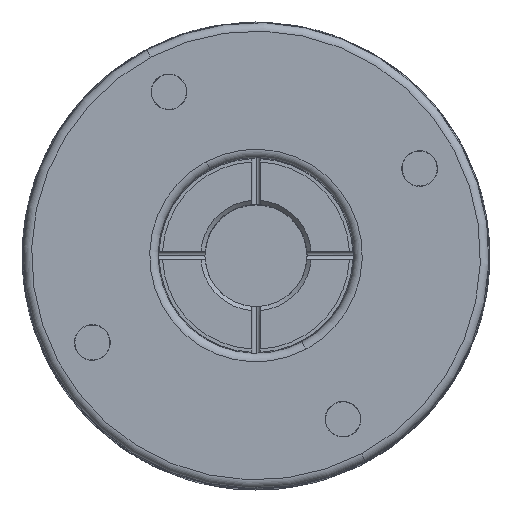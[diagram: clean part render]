
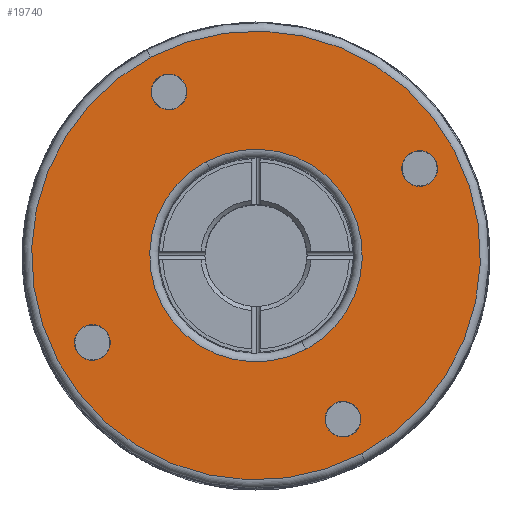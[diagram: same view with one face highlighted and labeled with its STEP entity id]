
A CAD part, top view. The second image highlights one B-rep face of the part: STEP entity #19740.
In plain terms, the highlighted planar face has unit normal (0, 0, 1).
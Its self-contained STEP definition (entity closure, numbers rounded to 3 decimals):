
#81 = DIRECTION ( 'NONE',  ( 0.469, -0.883, 0. ) ) ;
#211 = DIRECTION ( 'NONE',  ( 0.469, -0.883, 0. ) ) ;
#485 = EDGE_CURVE ( 'NONE', #24541, #12289, #16508, .T. ) ;
#808 = AXIS2_PLACEMENT_3D ( 'NONE', #7433, #20885, #9350 ) ;
#1446 = AXIS2_PLACEMENT_3D ( 'NONE', #5222, #18674, #7145 ) ;
#1499 = CIRCLE ( 'NONE', #808, 12.505 ) ;
#1545 = ORIENTED_EDGE ( 'NONE', *, *, #485, .F. ) ;
#1846 = ORIENTED_EDGE ( 'NONE', *, *, #5336, .F. ) ;
#2069 = CARTESIAN_POINT ( 'NONE',  ( -5.352, 10.066, 22.3 ) ) ;
#2093 = CARTESIAN_POINT ( 'NONE',  ( 10.234, -19.248, 22.3 ) ) ;
#2953 = CIRCLE ( 'NONE', #15257, 26.4 ) ;
#2986 = DIRECTION ( 'NONE',  ( 0., 0., 1. ) ) ;
#3183 = CARTESIAN_POINT ( 'NONE',  ( -12.394, 23.31, 22.3 ) ) ;
#3750 = CARTESIAN_POINT ( 'NONE',  ( -18.262, -12.089, 22.3 ) ) ;
#4028 = DIRECTION ( 'NONE',  ( 0.469, -0.883, 0. ) ) ;
#4112 = CARTESIAN_POINT ( 'NONE',  ( 19.248, 10.234, 22.3 ) ) ;
#4197 = CIRCLE ( 'NONE', #15821, 2.1 ) ;
#4820 = CIRCLE ( 'NONE', #5907, 2.1 ) ;
#4978 = EDGE_CURVE ( 'NONE', #22775, #10014, #21068, .T. ) ;
#5034 = CIRCLE ( 'NONE', #23085, 2.1 ) ;
#5172 = CIRCLE ( 'NONE', #9003, 2.1 ) ;
#5222 = CARTESIAN_POINT ( 'NONE',  ( 0., 0., 22.3 ) ) ;
#5324 = CARTESIAN_POINT ( 'NONE',  ( -20.234, -8.38, 22.3 ) ) ;
#5336 = EDGE_CURVE ( 'NONE', #10014, #22775, #4197, .T. ) ;
#5355 = CARTESIAN_POINT ( 'NONE',  ( -8.38, 20.234, 22.3 ) ) ;
#5907 = AXIS2_PLACEMENT_3D ( 'NONE', #6053, #19507, #7984 ) ;
#5948 = EDGE_CURVE ( 'NONE', #7555, #15509, #19544, .T. ) ;
#6005 = CIRCLE ( 'NONE', #12465, 2.1 ) ;
#6053 = CARTESIAN_POINT ( 'NONE',  ( 19.248, 10.234, 22.3 ) ) ;
#6063 = DIRECTION ( 'NONE',  ( 0.469, -0.883, 0. ) ) ;
#6144 = FACE_BOUND ( 'NONE', #12751, .T. ) ;
#6516 = CARTESIAN_POINT ( 'NONE',  ( 0., 0., 22.3 ) ) ;
#6755 = EDGE_CURVE ( 'NONE', #24419, #17354, #5034, .T. ) ;
#7041 = CARTESIAN_POINT ( 'NONE',  ( 10.234, -19.248, 22.3 ) ) ;
#7145 = DIRECTION ( 'NONE',  ( -0.469, 0.883, 0. ) ) ;
#7433 = CARTESIAN_POINT ( 'NONE',  ( 0., 0., 22.3 ) ) ;
#7555 = VERTEX_POINT ( 'NONE', #16173 ) ;
#7890 = ORIENTED_EDGE ( 'NONE', *, *, #5948, .T. ) ;
#7892 = EDGE_LOOP ( 'NONE', ( #18116, #1545 ) ) ;
#7896 = DIRECTION ( 'NONE',  ( -0.469, 0.883, 0. ) ) ;
#7984 = DIRECTION ( 'NONE',  ( 0.469, -0.883, 0. ) ) ;
#7999 = EDGE_LOOP ( 'NONE', ( #13496, #7890 ) ) ;
#8431 = DIRECTION ( 'NONE',  ( -0.469, 0.883, 0. ) ) ;
#8605 = AXIS2_PLACEMENT_3D ( 'NONE', #2093, #15574, #4028 ) ;
#8818 = EDGE_LOOP ( 'NONE', ( #10852, #1846 ) ) ;
#8874 = ORIENTED_EDGE ( 'NONE', *, *, #14502, .T. ) ;
#8937 = DIRECTION ( 'NONE',  ( 0., 0., 1. ) ) ;
#8945 = DIRECTION ( 'NONE',  ( 0.469, -0.883, 0. ) ) ;
#9003 = AXIS2_PLACEMENT_3D ( 'NONE', #7041, #20492, #8945 ) ;
#9016 = DIRECTION ( 'NONE',  ( 0., 0., 1. ) ) ;
#9350 = DIRECTION ( 'NONE',  ( -0.469, 0.883, 0. ) ) ;
#10014 = VERTEX_POINT ( 'NONE', #5324 ) ;
#10019 = VERTEX_POINT ( 'NONE', #22632 ) ;
#10852 = ORIENTED_EDGE ( 'NONE', *, *, #4978, .F. ) ;
#11258 = FACE_BOUND ( 'NONE', #8818, .T. ) ;
#11631 = DIRECTION ( 'NONE',  ( 0., 0., 1. ) ) ;
#11759 = DIRECTION ( 'NONE',  ( 0., 0., 1. ) ) ;
#11921 = EDGE_CURVE ( 'NONE', #12289, #24541, #5172, .T. ) ;
#12289 = VERTEX_POINT ( 'NONE', #19977 ) ;
#12465 = AXIS2_PLACEMENT_3D ( 'NONE', #20481, #8937, #22390 ) ;
#12751 = EDGE_LOOP ( 'NONE', ( #20333, #13653 ) ) ;
#12954 = CIRCLE ( 'NONE', #18088, 2.1 ) ;
#13329 = CARTESIAN_POINT ( 'NONE',  ( 20.234, 8.38, 22.3 ) ) ;
#13496 = ORIENTED_EDGE ( 'NONE', *, *, #14136, .T. ) ;
#13505 = CARTESIAN_POINT ( 'NONE',  ( 18.262, 12.089, 22.3 ) ) ;
#13653 = ORIENTED_EDGE ( 'NONE', *, *, #16779, .F. ) ;
#14035 = EDGE_CURVE ( 'NONE', #10019, #23816, #12954, .T. ) ;
#14136 = EDGE_CURVE ( 'NONE', #15509, #7555, #1499, .T. ) ;
#14502 = EDGE_CURVE ( 'NONE', #23065, #16019, #24348, .T. ) ;
#14548 = AXIS2_PLACEMENT_3D ( 'NONE', #14559, #2986, #16476 ) ;
#14559 = CARTESIAN_POINT ( 'NONE',  ( 0., 0., 22.3 ) ) ;
#15257 = AXIS2_PLACEMENT_3D ( 'NONE', #6516, #19984, #8431 ) ;
#15315 = AXIS2_PLACEMENT_3D ( 'NONE', #2069, #19416, #7896 ) ;
#15509 = VERTEX_POINT ( 'NONE', #19724 ) ;
#15574 = DIRECTION ( 'NONE',  ( 0., 0., 1. ) ) ;
#15821 = AXIS2_PLACEMENT_3D ( 'NONE', #23134, #11631, #81 ) ;
#16019 = VERTEX_POINT ( 'NONE', #3183 ) ;
#16173 = CARTESIAN_POINT ( 'NONE',  ( 5.871, -11.041, 22.3 ) ) ;
#16360 = FACE_BOUND ( 'NONE', #23303, .T. ) ;
#16476 = DIRECTION ( 'NONE',  ( -0.469, 0.883, 0. ) ) ;
#16508 = CIRCLE ( 'NONE', #8605, 2.1 ) ;
#16779 = EDGE_CURVE ( 'NONE', #17354, #24419, #4820, .T. ) ;
#16968 = FACE_BOUND ( 'NONE', #7892, .T. ) ;
#17354 = VERTEX_POINT ( 'NONE', #13505 ) ;
#17425 = EDGE_CURVE ( 'NONE', #16019, #23065, #2953, .T. ) ;
#17493 = PLANE ( 'NONE',  #15315 ) ;
#17597 = FACE_OUTER_BOUND ( 'NONE', #18165, .T. ) ;
#17611 = DIRECTION ( 'NONE',  ( 0., 0., 1. ) ) ;
#18056 = AXIS2_PLACEMENT_3D ( 'NONE', #23280, #11759, #211 ) ;
#18088 = AXIS2_PLACEMENT_3D ( 'NONE', #20553, #9016, #22451 ) ;
#18116 = ORIENTED_EDGE ( 'NONE', *, *, #11921, .F. ) ;
#18165 = EDGE_LOOP ( 'NONE', ( #18565, #8874 ) ) ;
#18565 = ORIENTED_EDGE ( 'NONE', *, *, #17425, .T. ) ;
#18674 = DIRECTION ( 'NONE',  ( 0., 0., -1. ) ) ;
#19416 = DIRECTION ( 'NONE',  ( 0., 0., -1. ) ) ;
#19425 = ORIENTED_EDGE ( 'NONE', *, *, #14035, .F. ) ;
#19507 = DIRECTION ( 'NONE',  ( 0., 0., 1. ) ) ;
#19544 = CIRCLE ( 'NONE', #1446, 12.505 ) ;
#19724 = CARTESIAN_POINT ( 'NONE',  ( -5.871, 11.041, 22.3 ) ) ;
#19740 = ADVANCED_FACE ( 'NONE', ( #6144, #16968, #11258, #16360, #22057, #17597 ), #17493, .F. ) ;
#19977 = CARTESIAN_POINT ( 'NONE',  ( 11.22, -21.102, 22.3 ) ) ;
#19984 = DIRECTION ( 'NONE',  ( 0., 0., 1. ) ) ;
#20333 = ORIENTED_EDGE ( 'NONE', *, *, #6755, .F. ) ;
#20481 = CARTESIAN_POINT ( 'NONE',  ( -10.234, 19.248, 22.3 ) ) ;
#20492 = DIRECTION ( 'NONE',  ( 0., 0., 1. ) ) ;
#20553 = CARTESIAN_POINT ( 'NONE',  ( -10.234, 19.248, 22.3 ) ) ;
#20869 = ORIENTED_EDGE ( 'NONE', *, *, #23047, .F. ) ;
#20885 = DIRECTION ( 'NONE',  ( 0., 0., -1. ) ) ;
#21068 = CIRCLE ( 'NONE', #18056, 2.1 ) ;
#22057 = FACE_BOUND ( 'NONE', #7999, .T. ) ;
#22390 = DIRECTION ( 'NONE',  ( 0.883, 0.469, 0. ) ) ;
#22451 = DIRECTION ( 'NONE',  ( 0.883, 0.469, 0. ) ) ;
#22632 = CARTESIAN_POINT ( 'NONE',  ( -12.089, 18.262, 22.3 ) ) ;
#22775 = VERTEX_POINT ( 'NONE', #3750 ) ;
#23047 = EDGE_CURVE ( 'NONE', #23816, #10019, #6005, .T. ) ;
#23065 = VERTEX_POINT ( 'NONE', #24324 ) ;
#23085 = AXIS2_PLACEMENT_3D ( 'NONE', #4112, #17611, #6063 ) ;
#23134 = CARTESIAN_POINT ( 'NONE',  ( -19.248, -10.234, 22.3 ) ) ;
#23280 = CARTESIAN_POINT ( 'NONE',  ( -19.248, -10.234, 22.3 ) ) ;
#23303 = EDGE_LOOP ( 'NONE', ( #20869, #19425 ) ) ;
#23399 = CARTESIAN_POINT ( 'NONE',  ( 9.249, -17.394, 22.3 ) ) ;
#23816 = VERTEX_POINT ( 'NONE', #5355 ) ;
#24324 = CARTESIAN_POINT ( 'NONE',  ( 12.394, -23.31, 22.3 ) ) ;
#24348 = CIRCLE ( 'NONE', #14548, 26.4 ) ;
#24419 = VERTEX_POINT ( 'NONE', #13329 ) ;
#24541 = VERTEX_POINT ( 'NONE', #23399 ) ;
